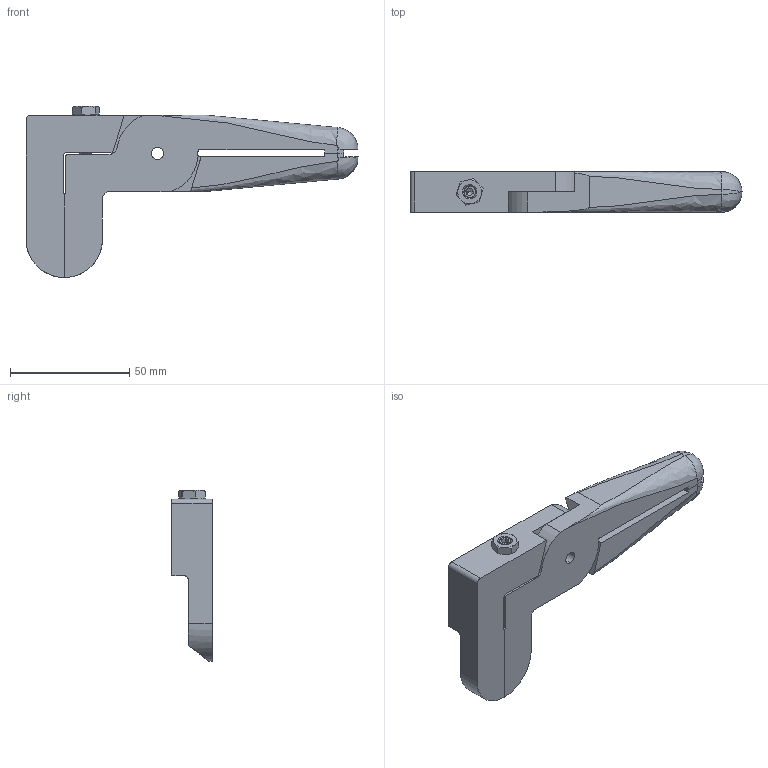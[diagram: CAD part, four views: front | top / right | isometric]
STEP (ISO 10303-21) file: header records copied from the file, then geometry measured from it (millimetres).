
FILE_DESCRIPTION (( 'STEP AP203' ), '1' );
FILE_NAME ('N30AMR1395.STEP', '2024-07-24T07:36:46', ( '微软用户' ), ( '微软中国' ), 'SwSTEP 2.0', 'SolidWorks 2018', '' );
FILE_SCHEMA (( 'CONFIG_CONTROL_DESIGN' ));
Length unit declared in the file: millimetre
Products named in the file (5): N30AMR1395固定刃; N30AMR1395可動刃; 榋妏寠晅巭傔燃轒6L20; M6敄宆暖; N30AMR1395
Assembly tree (4 placements, depth 2):
  N30AMR1395
    N30AMR1395固定刃
    N30AMR1395可動刃
    榋妏寠晅巭傔燃轒6L20
    M6敄宆暖
Bounding box: 139 x 17 x 71.6 mm (x, y, z)
Volume: 66746.3 mm3; surface area: 22728.6 mm2
Topology: 4 solids, 4 shells, 136 faces, 351 edges, 222 vertices
Faces by surface type: plane 63, cylinder 41, cone 22, bspline 10
Entity records: 6152 total; most frequent: CARTESIAN_POINT 2380, ORIENTED_EDGE 698, DIRECTION 668, EDGE_CURVE 349, AXIS2_PLACEMENT_3D 245, VERTEX_POINT 222, VECTOR 178, LINE 178
